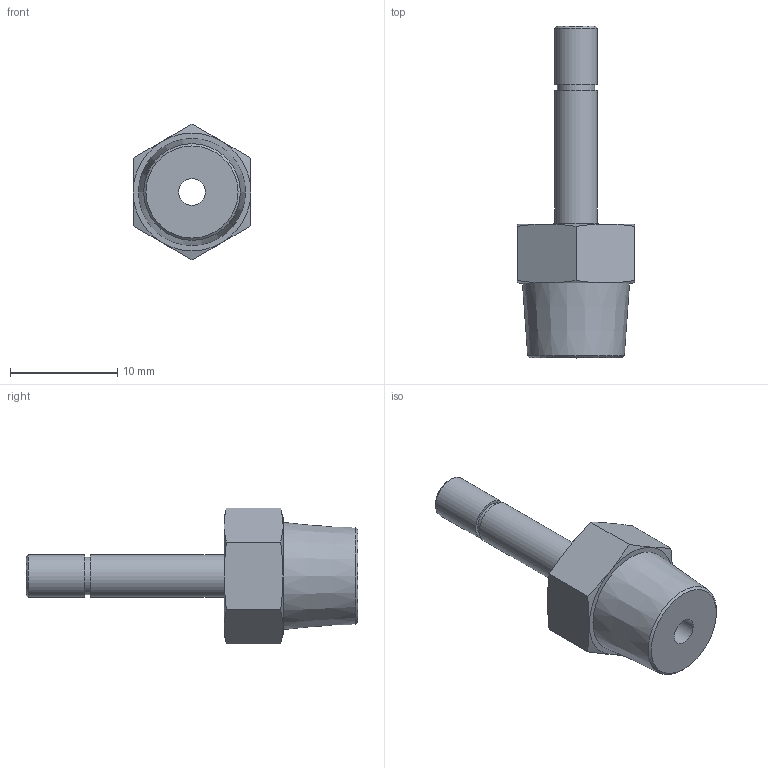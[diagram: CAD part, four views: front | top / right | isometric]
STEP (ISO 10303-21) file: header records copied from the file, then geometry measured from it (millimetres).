
FILE_DESCRIPTION(/* description */ (''),/* implementation_level */ '2;1');
FILE_NAME(/* name */ 'LXH15 0004 B1.stp',/* time_stamp */ '2026-04-28T15:24:05+02:00',/* author */ ('freju'),/* organization */ (''),/* preprocessor_version */ 'ST-DEVELOPER v20.1',/* originating_system */ 'Autodesk Inventor 2026',/* authorisation */ '');
FILE_SCHEMA (('AUTOMOTIVE_DESIGN { 1 0 10303 214 3 1 1 }'));
Length unit declared in the file: millimetre
Products named in the file (1): LXH15 0004 B1
Bounding box: 11 x 31 x 12.7 mm (x, y, z)
Volume: 1149.8 mm3; surface area: 1075.3 mm2
Topology: 1 solids, 1 shells, 31 faces, 63 edges, 38 vertices
Faces by surface type: cone 15, plane 12, cylinder 4
Full cylindrical faces by diameter (mm): 2.5 x1, 3.5 x1, 4 x2
Entity records: 830 total; most frequent: CARTESIAN_POINT 181, DIRECTION 129, ORIENTED_EDGE 126, EDGE_CURVE 63, AXIS2_PLACEMENT_3D 58, VERTEX_POINT 38, EDGE_LOOP 37, FACE_OUTER_BOUND 31
